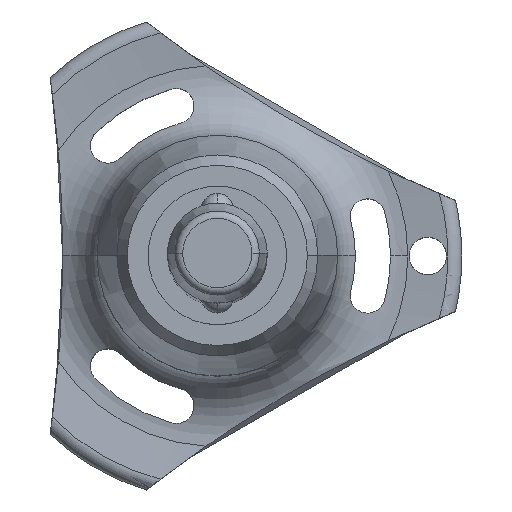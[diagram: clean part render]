
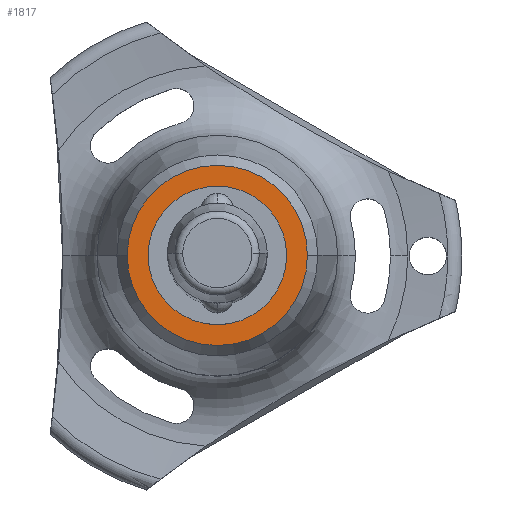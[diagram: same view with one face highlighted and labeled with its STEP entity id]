
A CAD part, top view. The second image highlights one B-rep face of the part: STEP entity #1817.
In plain terms, the highlighted planar face has unit normal (0, 0, 1).
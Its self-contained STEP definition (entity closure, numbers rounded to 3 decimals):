
#140 = AXIS2_PLACEMENT_3D ( 'NONE', #293, #1760, #1977 ) ;
#190 = CARTESIAN_POINT ( 'NONE',  ( 0., 5.554, -100.6 ) ) ;
#191 = VERTEX_POINT ( 'NONE', #1891 ) ;
#194 = EDGE_CURVE ( 'NONE', #2644, #191, #2337, .T. ) ;
#209 = DIRECTION ( 'NONE',  ( 0., 0., 1. ) ) ;
#254 = DIRECTION ( 'NONE',  ( -1., 0., 0. ) ) ;
#293 = CARTESIAN_POINT ( 'NONE',  ( 0., 0., -100.6 ) ) ;
#575 = CARTESIAN_POINT ( 'NONE',  ( -5.554, 0., -100.6 ) ) ;
#743 = DIRECTION ( 'NONE',  ( 0., 0., -1. ) ) ;
#834 = FACE_BOUND ( 'NONE', #1657, .T. ) ;
#855 = PLANE ( 'NONE',  #2708 ) ;
#1010 = ORIENTED_EDGE ( 'NONE', *, *, #2383, .F. ) ;
#1025 = DIRECTION ( 'NONE',  ( -1., 0., 0. ) ) ;
#1056 = EDGE_CURVE ( 'NONE', #2714, #1854, #1992, .T. ) ;
#1057 = CARTESIAN_POINT ( 'NONE',  ( 7.22, 0., -100.6 ) ) ;
#1147 = DIRECTION ( 'NONE',  ( -1., 0., 0. ) ) ;
#1153 = AXIS2_PLACEMENT_3D ( 'NONE', #1252, #2084, #1025 ) ;
#1252 = CARTESIAN_POINT ( 'NONE',  ( 0., 0., -100.6 ) ) ;
#1367 = EDGE_LOOP ( 'NONE', ( #2555, #1010 ) ) ;
#1512 = AXIS2_PLACEMENT_3D ( 'NONE', #2357, #2387, #254 ) ;
#1651 = DIRECTION ( 'NONE',  ( 1., 0., 0. ) ) ;
#1657 = EDGE_LOOP ( 'NONE', ( #1789, #2720 ) ) ;
#1696 = FACE_OUTER_BOUND ( 'NONE', #1367, .T. ) ;
#1760 = DIRECTION ( 'NONE',  ( 0., 0., -1. ) ) ;
#1780 = CIRCLE ( 'NONE', #2309, 5.554 ) ;
#1789 = ORIENTED_EDGE ( 'NONE', *, *, #194, .T. ) ;
#1817 = ADVANCED_FACE ( 'NONE', ( #834, #1696 ), #855, .T. ) ;
#1854 = VERTEX_POINT ( 'NONE', #1057 ) ;
#1891 = CARTESIAN_POINT ( 'NONE',  ( 5.554, 0., -100.6 ) ) ;
#1977 = DIRECTION ( 'NONE',  ( -1., 0., 0. ) ) ;
#1992 = CIRCLE ( 'NONE', #140, 7.22 ) ;
#2084 = DIRECTION ( 'NONE',  ( 0., 0., -1. ) ) ;
#2309 = AXIS2_PLACEMENT_3D ( 'NONE', #2643, #743, #1147 ) ;
#2337 = CIRCLE ( 'NONE', #1153, 5.554 ) ;
#2357 = CARTESIAN_POINT ( 'NONE',  ( 0., 0., -100.6 ) ) ;
#2383 = EDGE_CURVE ( 'NONE', #1854, #2714, #2444, .T. ) ;
#2387 = DIRECTION ( 'NONE',  ( 0., 0., -1. ) ) ;
#2444 = CIRCLE ( 'NONE', #1512, 7.22 ) ;
#2521 = EDGE_CURVE ( 'NONE', #191, #2644, #1780, .T. ) ;
#2555 = ORIENTED_EDGE ( 'NONE', *, *, #1056, .F. ) ;
#2643 = CARTESIAN_POINT ( 'NONE',  ( 0., 0., -100.6 ) ) ;
#2644 = VERTEX_POINT ( 'NONE', #575 ) ;
#2708 = AXIS2_PLACEMENT_3D ( 'NONE', #190, #209, #1651 ) ;
#2714 = VERTEX_POINT ( 'NONE', #2722 ) ;
#2720 = ORIENTED_EDGE ( 'NONE', *, *, #2521, .T. ) ;
#2722 = CARTESIAN_POINT ( 'NONE',  ( -7.22, 0., -100.6 ) ) ;
